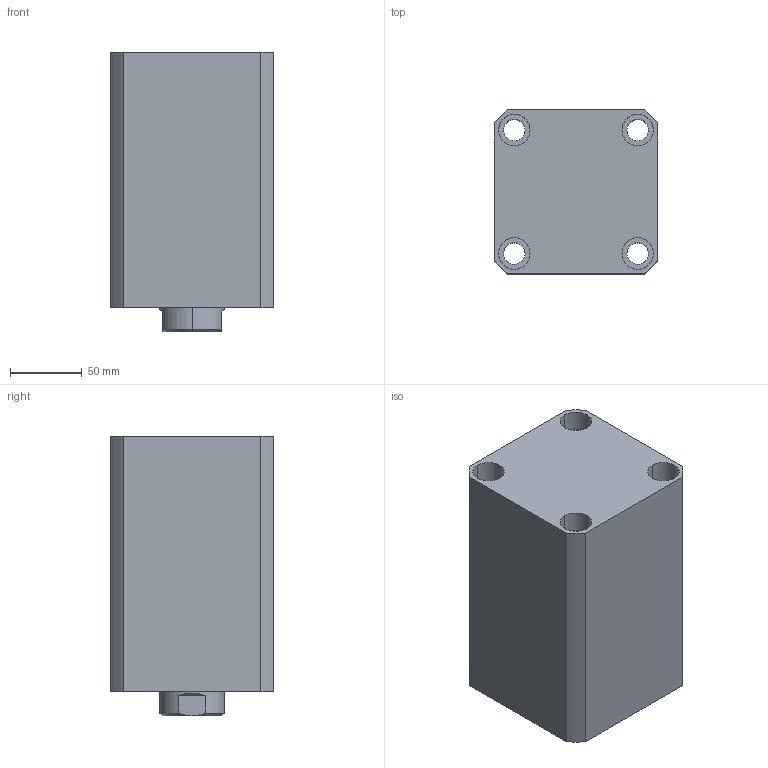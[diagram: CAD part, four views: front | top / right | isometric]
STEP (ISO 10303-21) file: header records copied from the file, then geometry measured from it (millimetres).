
FILE_DESCRIPTION (( 'STEP AP214' ), '1' );
FILE_NAME ('chtb-sdma80x100n_asm.STEP', '2018-05-29T02:23:04', ( 'Windows' ), ( 'Microsoft' ), 'SwSTEP 2.0', 'SolidWorks 2015', '' );
FILE_SCHEMA (( 'AUTOMOTIVE_DESIGN' ));
Length unit declared in the file: millimetre
Products named in the file (4): CHTB-SDMA80X100NBT; CHTB-SD80X100NHSG; CHTB-SD80QG; chtb-sdma80x100n_asm
Assembly tree (3 placements, depth 2):
  chtb-sdma80x100n_asm
    CHTB-SD80QG
    CHTB-SD80X100NHSG
    CHTB-SDMA80X100NBT
Bounding box: 114 x 114 x 195 mm (x, y, z)
Volume: 1776542.4 mm3; surface area: 253577.9 mm2
Topology: 3 solids, 3 shells, 190 faces, 516 edges, 345 vertices
Faces by surface type: cylinder 107, plane 35, torus 18, cone 16, bspline 14
Entity records: 15170 total; most frequent: CARTESIAN_POINT 10463, ORIENTED_EDGE 1020, DIRECTION 879, EDGE_CURVE 510, AXIS2_PLACEMENT_3D 368, VERTEX_POINT 345, EDGE_LOOP 227, FACE_OUTER_BOUND 190
